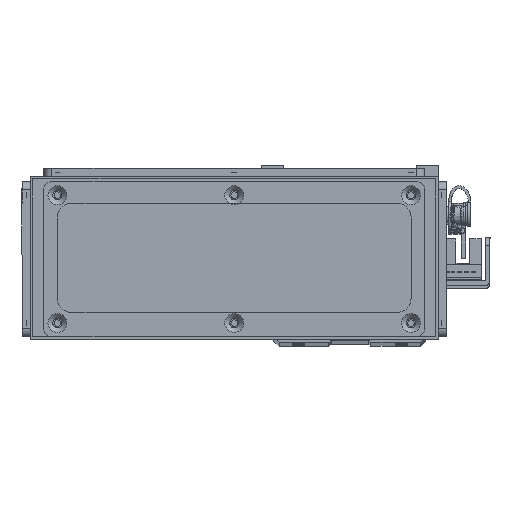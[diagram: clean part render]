
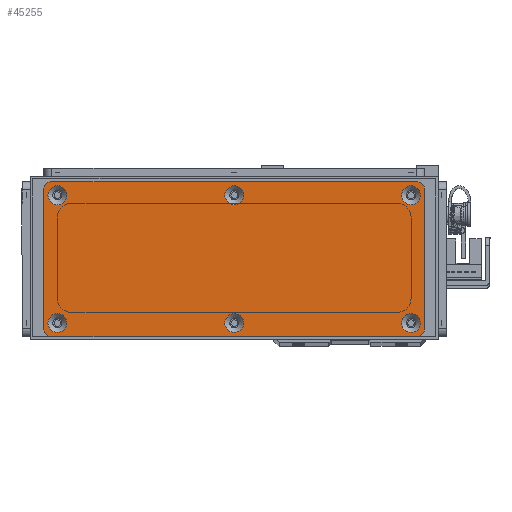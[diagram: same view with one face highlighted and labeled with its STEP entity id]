
A CAD part, top view. The second image highlights one B-rep face of the part: STEP entity #45255.
In plain terms, the highlighted planar face has unit normal (0, 0, 1).
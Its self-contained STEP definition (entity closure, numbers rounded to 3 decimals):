
#1543=FACE_BOUND('',#7909,.T.);
#1544=FACE_BOUND('',#7910,.T.);
#1545=FACE_BOUND('',#7911,.T.);
#1546=FACE_BOUND('',#7912,.T.);
#1547=FACE_BOUND('',#7913,.T.);
#1548=FACE_BOUND('',#7914,.T.);
#3128=PLANE('',#48936);
#5233=FACE_OUTER_BOUND('',#7908,.T.);
#7908=EDGE_LOOP('',(#40888,#40889,#40890,#40891,#40892,#40893,#40894,#40895));
#7909=EDGE_LOOP('',(#40896));
#7910=EDGE_LOOP('',(#40897));
#7911=EDGE_LOOP('',(#40898));
#7912=EDGE_LOOP('',(#40899));
#7913=EDGE_LOOP('',(#40900));
#7914=EDGE_LOOP('',(#40901));
#12760=LINE('',#74289,#17637);
#12763=LINE('',#74297,#17640);
#12766=LINE('',#74305,#17643);
#12769=LINE('',#74312,#17646);
#17637=VECTOR('',#59887,10.);
#17640=VECTOR('',#59896,10.);
#17643=VECTOR('',#59905,10.);
#17646=VECTOR('',#59914,10.);
#19079=CIRCLE('',#48890,3.45);
#19082=CIRCLE('',#48895,3.45);
#19085=CIRCLE('',#48900,3.45);
#19088=CIRCLE('',#48905,3.45);
#19091=CIRCLE('',#48910,3.45);
#19094=CIRCLE('',#48915,3.45);
#19101=CIRCLE('',#48925,3.);
#19102=CIRCLE('',#48928,3.);
#19103=CIRCLE('',#48931,3.);
#19104=CIRCLE('',#48934,3.);
#23009=VERTEX_POINT('',#74205);
#23012=VERTEX_POINT('',#74215);
#23015=VERTEX_POINT('',#74225);
#23018=VERTEX_POINT('',#74235);
#23021=VERTEX_POINT('',#74245);
#23024=VERTEX_POINT('',#74255);
#23035=VERTEX_POINT('',#74282);
#23036=VERTEX_POINT('',#74284);
#23037=VERTEX_POINT('',#74288);
#23038=VERTEX_POINT('',#74292);
#23039=VERTEX_POINT('',#74296);
#23040=VERTEX_POINT('',#74300);
#23041=VERTEX_POINT('',#74304);
#23042=VERTEX_POINT('',#74308);
#29034=EDGE_CURVE('',#23009,#23009,#19079,.T.);
#29039=EDGE_CURVE('',#23012,#23012,#19082,.T.);
#29044=EDGE_CURVE('',#23015,#23015,#19085,.T.);
#29049=EDGE_CURVE('',#23018,#23018,#19088,.T.);
#29054=EDGE_CURVE('',#23021,#23021,#19091,.T.);
#29059=EDGE_CURVE('',#23024,#23024,#19094,.T.);
#29073=EDGE_CURVE('',#23036,#23035,#19101,.T.);
#29075=EDGE_CURVE('',#23037,#23036,#12760,.T.);
#29077=EDGE_CURVE('',#23038,#23037,#19102,.T.);
#29079=EDGE_CURVE('',#23039,#23038,#12763,.T.);
#29081=EDGE_CURVE('',#23040,#23039,#19103,.T.);
#29083=EDGE_CURVE('',#23041,#23040,#12766,.T.);
#29085=EDGE_CURVE('',#23042,#23041,#19104,.T.);
#29087=EDGE_CURVE('',#23035,#23042,#12769,.T.);
#40888=ORIENTED_EDGE('',*,*,#29087,.T.);
#40889=ORIENTED_EDGE('',*,*,#29085,.T.);
#40890=ORIENTED_EDGE('',*,*,#29083,.T.);
#40891=ORIENTED_EDGE('',*,*,#29081,.T.);
#40892=ORIENTED_EDGE('',*,*,#29079,.T.);
#40893=ORIENTED_EDGE('',*,*,#29077,.T.);
#40894=ORIENTED_EDGE('',*,*,#29075,.T.);
#40895=ORIENTED_EDGE('',*,*,#29073,.T.);
#40896=ORIENTED_EDGE('',*,*,#29034,.T.);
#40897=ORIENTED_EDGE('',*,*,#29039,.T.);
#40898=ORIENTED_EDGE('',*,*,#29044,.T.);
#40899=ORIENTED_EDGE('',*,*,#29049,.T.);
#40900=ORIENTED_EDGE('',*,*,#29054,.T.);
#40901=ORIENTED_EDGE('',*,*,#29059,.T.);
#45255=ADVANCED_FACE('',(#5233,#1543,#1544,#1545,#1546,#1547,#1548),#3128,
 .T.);
#48890=AXIS2_PLACEMENT_3D('',#74206,#59795,#59796);
#48895=AXIS2_PLACEMENT_3D('',#74216,#59807,#59808);
#48900=AXIS2_PLACEMENT_3D('',#74226,#59819,#59820);
#48905=AXIS2_PLACEMENT_3D('',#74236,#59831,#59832);
#48910=AXIS2_PLACEMENT_3D('',#74246,#59843,#59844);
#48915=AXIS2_PLACEMENT_3D('',#74256,#59855,#59856);
#48925=AXIS2_PLACEMENT_3D('',#74285,#59882,#59883);
#48928=AXIS2_PLACEMENT_3D('',#74293,#59891,#59892);
#48931=AXIS2_PLACEMENT_3D('',#74301,#59900,#59901);
#48934=AXIS2_PLACEMENT_3D('',#74309,#59909,#59910);
#48936=AXIS2_PLACEMENT_3D('',#74313,#59915,#59916);
#59795=DIRECTION('center_axis',(0.,0.,-1.));
#59796=DIRECTION('ref_axis',(1.,0.,0.));
#59807=DIRECTION('center_axis',(0.,0.,-1.));
#59808=DIRECTION('ref_axis',(1.,0.,0.));
#59819=DIRECTION('center_axis',(0.,0.,-1.));
#59820=DIRECTION('ref_axis',(1.,0.,0.));
#59831=DIRECTION('center_axis',(0.,0.,-1.));
#59832=DIRECTION('ref_axis',(1.,0.,0.));
#59843=DIRECTION('center_axis',(0.,0.,-1.));
#59844=DIRECTION('ref_axis',(1.,0.,0.));
#59855=DIRECTION('center_axis',(0.,0.,-1.));
#59856=DIRECTION('ref_axis',(1.,0.,0.));
#59882=DIRECTION('center_axis',(0.,0.,1.));
#59883=DIRECTION('ref_axis',(0.,1.,0.));
#59887=DIRECTION('',(-1.,0.,0.));
#59891=DIRECTION('center_axis',(0.,0.,1.));
#59892=DIRECTION('ref_axis',(1.,0.,0.));
#59896=DIRECTION('',(0.,1.,0.));
#59900=DIRECTION('center_axis',(0.,0.,1.));
#59901=DIRECTION('ref_axis',(0.,-1.,0.));
#59905=DIRECTION('',(1.,0.,0.));
#59909=DIRECTION('center_axis',(0.,0.,1.));
#59910=DIRECTION('ref_axis',(-1.,0.,0.));
#59914=DIRECTION('',(0.,-1.,0.));
#59915=DIRECTION('center_axis',(0.,0.,1.));
#59916=DIRECTION('ref_axis',(1.,0.,0.));
#74205=CARTESIAN_POINT('',(-3.45,23.5,1.5));
#74206=CARTESIAN_POINT('Origin',(0.,23.5,1.5));
#74215=CARTESIAN_POINT('',(61.55,-23.5,1.5));
#74216=CARTESIAN_POINT('Origin',(65.,-23.5,1.5));
#74225=CARTESIAN_POINT('',(-68.45,23.5,1.5));
#74226=CARTESIAN_POINT('Origin',(-65.,23.5,1.5));
#74235=CARTESIAN_POINT('',(61.55,23.5,1.5));
#74236=CARTESIAN_POINT('Origin',(65.,23.5,1.5));
#74245=CARTESIAN_POINT('',(-68.45,-23.5,1.5));
#74246=CARTESIAN_POINT('Origin',(-65.,-23.5,1.5));
#74255=CARTESIAN_POINT('',(-3.45,-23.5,1.5));
#74256=CARTESIAN_POINT('Origin',(0.,-23.5,1.5));
#74282=CARTESIAN_POINT('',(-70.,25.5,1.5));
#74284=CARTESIAN_POINT('',(-67.,28.5,1.5));
#74285=CARTESIAN_POINT('Origin',(-67.,25.5,1.5));
#74288=CARTESIAN_POINT('',(67.,28.5,1.5));
#74289=CARTESIAN_POINT('',(67.,28.5,1.5));
#74292=CARTESIAN_POINT('',(70.,25.5,1.5));
#74293=CARTESIAN_POINT('Origin',(67.,25.5,1.5));
#74296=CARTESIAN_POINT('',(70.,-25.5,1.5));
#74297=CARTESIAN_POINT('',(70.,-25.5,1.5));
#74300=CARTESIAN_POINT('',(67.,-28.5,1.5));
#74301=CARTESIAN_POINT('Origin',(67.,-25.5,1.5));
#74304=CARTESIAN_POINT('',(-67.,-28.5,1.5));
#74305=CARTESIAN_POINT('',(-67.,-28.5,1.5));
#74308=CARTESIAN_POINT('',(-70.,-25.5,1.5));
#74309=CARTESIAN_POINT('Origin',(-67.,-25.5,1.5));
#74312=CARTESIAN_POINT('',(-70.,25.5,1.5));
#74313=CARTESIAN_POINT('Origin',(0.,0.,
1.5));
